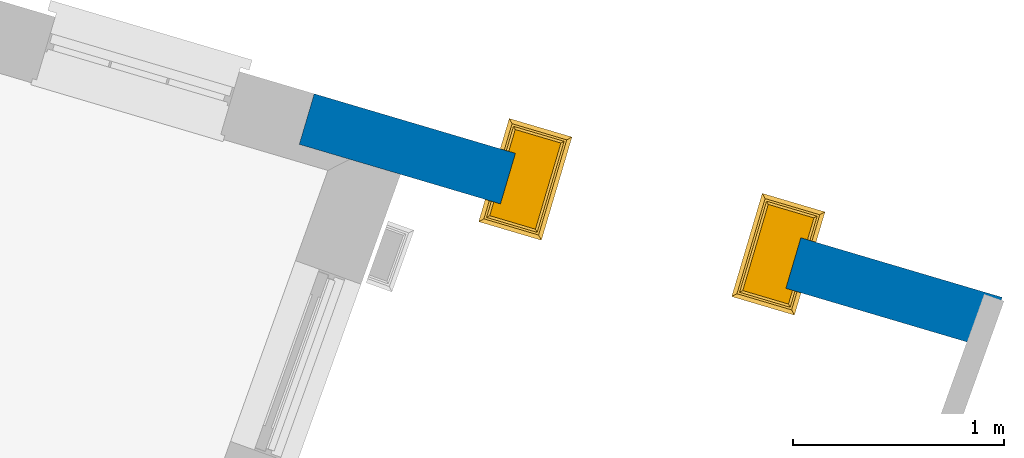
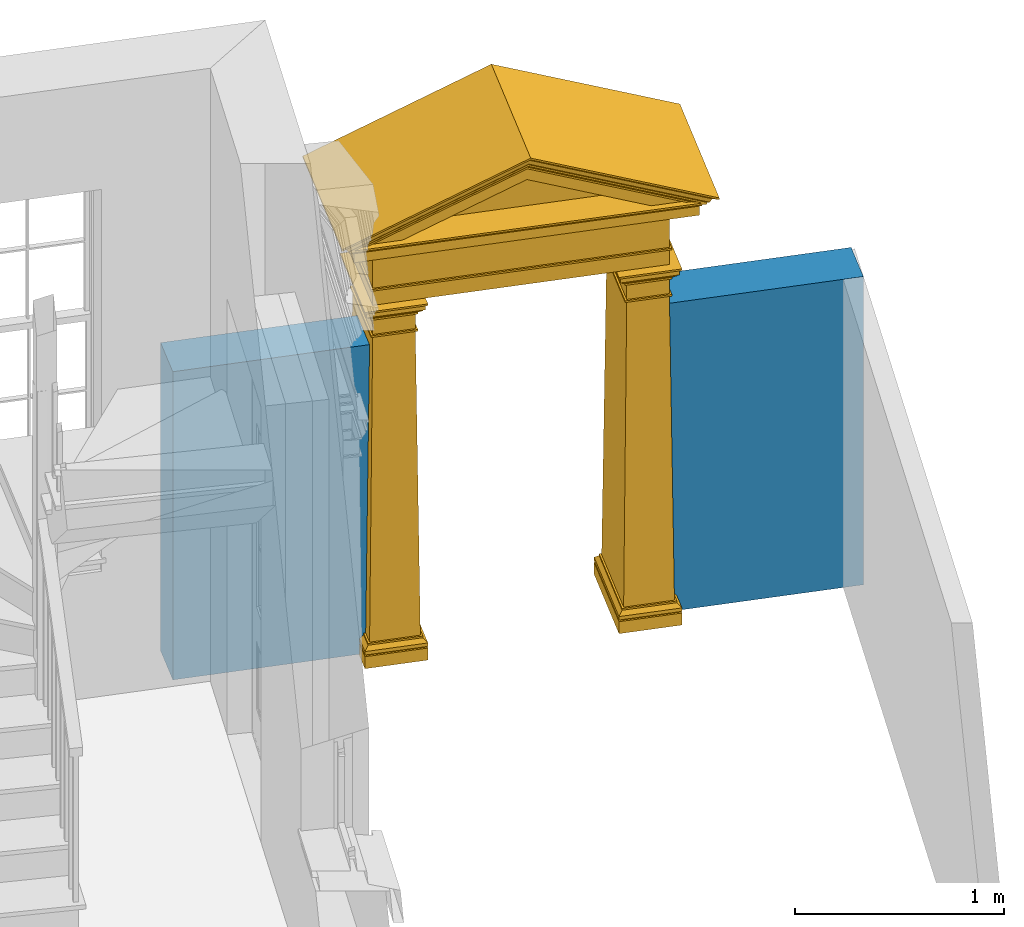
# One storey, part 7 of 7: 1 door, 1 wall, 1 opening.
"""IFC4 building model written with IfcOpenShell, lengths in metres."""

import ifcopenshell
import ifcopenshell.guid

model = None  # the IFC model being written
_history = None  # IfcOwnerHistory: only IFC2X3 demands one
_inside = {}  # id of a spatial element -> (the spatial element, [elements in it])
_under = {}  # id of a project, library or spatial element -> (it, [spatial elements below it])
_declared = {}  # id of a project -> (the project, [libraries it declares])
_typed = {}  # id of a type object -> (the type object, [elements of that type])
_made_of = {}  # id of a material, layer set ... -> (it, [elements and type objects made of it])


def new_model(schema):
    """Start an empty IFC model of exactly this schema.

    Asked for "IFC4X3", IfcOpenShell would pick the latest addendum, in which some entities
    have other attributes; the version numbers below select the first issue.
    IFC2X3 requires an IfcOwnerHistory on every rooted entity: one is made here for all.
    """
    global model, _history
    if schema == "IFC4X3":
        model = ifcopenshell.file(schema_version=(4, 3, 0, 0))
    else:
        model = ifcopenshell.file(schema=schema)
    _inside.clear()
    _under.clear()
    _declared.clear()
    _typed.clear()
    _made_of.clear()
    _history = None
    if model.schema == "IFC2X3":
        org = make("IfcOrganization", Name="unknown")
        user = make(
            "IfcPersonAndOrganization",
            ThePerson=make("IfcPerson", FamilyName="unknown"),
            TheOrganization=org,
        )
        app = make(
            "IfcApplication",
            ApplicationDeveloper=org,
            Version="unknown",
            ApplicationFullName="unknown",
            ApplicationIdentifier="unknown",
        )
        _history = make(
            "IfcOwnerHistory",
            OwningUser=user,
            OwningApplication=app,
            ChangeAction="ADDED",
            CreationDate=0,
        )
    return model


def make(cls, **values):
    """One entity of the class cls with the attributes given. An attribute that is None is left unset."""
    return model.create_entity(
        cls, **{name: value for name, value in values.items() if value is not None}
    )


def rooted(cls, **values):
    """An entity with a GlobalId (a new one), such as an element, a storey or a relation."""
    return make(cls, GlobalId=ifcopenshell.guid.new(), OwnerHistory=_history, **values)


def si_unit(unit_type, name, prefix=None):
    """IfcSIUnit, for example si_unit("LENGTHUNIT", "METRE", prefix="MILLI")."""
    return make("IfcSIUnit", UnitType=unit_type, Prefix=prefix, Name=name)


def assignment(units):
    """IfcUnitAssignment: the units of a project."""
    return None if units is None else make("IfcUnitAssignment", Units=units)


def point(xyz):
    """IfcCartesianPoint."""
    return None if xyz is None else make("IfcCartesianPoint", Coordinates=xyz)


def direction(xyz):
    """IfcDirection."""
    return None if xyz is None else make("IfcDirection", DirectionRatios=xyz)


def frame(location, z_axis=None, x_axis=None):
    """IfcAxis2Placement3D, a coordinate frame: its origin and axes. An axis left out is left unset."""
    return make(
        "IfcAxis2Placement3D",
        Location=point(location),
        Axis=direction(z_axis),
        RefDirection=direction(x_axis),
    )


def origin():
    """The frame at (0, 0, 0) with its axes left unset."""
    return frame((0.0, 0.0, 0.0))


def origin_with_axes():
    """The frame at (0, 0, 0) with the z axis (0, 0, 1) and the x axis (1, 0, 0) written out."""
    return frame((0.0, 0.0, 0.0), z_axis=(0.0, 0.0, 1.0), x_axis=(1.0, 0.0, 0.0))


def place(relative_to, where):
    """IfcLocalPlacement: puts the frame where relative to a parent placement (None: the world)."""
    return make(
        "IfcLocalPlacement", PlacementRelTo=relative_to, RelativePlacement=where
    )


def context(
    kind, dimensions, precision=None, world=None, true_north=None, identifier=None
):
    """IfcGeometricRepresentationContext, for example the 3D "Model" context."""
    return make(
        "IfcGeometricRepresentationContext",
        ContextIdentifier=identifier,
        ContextType=kind,
        CoordinateSpaceDimension=dimensions,
        Precision=precision,
        WorldCoordinateSystem=world,
        TrueNorth=true_north,
    )


def subcontext(parent, identifier, kind, view, scale=None):
    """IfcGeometricRepresentationSubContext, for example "Body" below "Model"."""
    return make(
        "IfcGeometricRepresentationSubContext",
        ContextIdentifier=identifier,
        ContextType=kind,
        ParentContext=parent,
        TargetScale=scale,
        TargetView=view,
    )


def project(units=None, contexts=None):
    """IfcProject with its units and contexts."""
    return rooted(
        "IfcProject",
        Name="project",
        RepresentationContexts=contexts,
        UnitsInContext=assignment(units),
    )


def spatial(cls, under=None, at=None, **own):
    """A site, building, storey or space (cls), placed at a placement, below another one or the project."""
    s = rooted(cls, ObjectPlacement=at, **own)
    if under is not None:
        _under.setdefault(under.id(), (under, []))[1].append(s)
    return s


def polyline(points):
    """IfcPolyline through the points."""
    return make("IfcPolyline", Points=[point(p) for p in points])


def outline(outer, holes=None, kind="AREA"):
    """IfcArbitraryClosedProfileDef: a profile drawn as a closed curve; with holes, ...WithVoids."""
    if holes is None:
        return make("IfcArbitraryClosedProfileDef", ProfileType=kind, OuterCurve=outer)
    return make(
        "IfcArbitraryProfileDefWithVoids",
        ProfileType=kind,
        OuterCurve=outer,
        InnerCurves=holes,
    )


def extrude(swept, where, along, depth):
    """IfcExtrudedAreaSolid: the profile swept, set in the frame where, extruded along a direction by depth."""
    return make(
        "IfcExtrudedAreaSolid",
        SweptArea=swept,
        Position=where,
        ExtrudedDirection=direction(along),
        Depth=depth,
    )


def faces_of(points, faces, orient=None, outer=None):
    """IfcFace entities. A face is a list of loops; a loop is a list of indices into points, from 0.

    orient and outer hold one flag for each loop. By default every Orientation is true, the
    first loop of a face is its IfcFaceOuterBound and the others are IfcFaceBound.
    """
    made = []
    for i, loops in enumerate(faces):
        bounds = []
        for j, loop in enumerate(loops):
            is_outer = j == 0 if outer is None else outer[i][j]
            bounds.append(
                make(
                    "IfcFaceOuterBound" if is_outer else "IfcFaceBound",
                    Bound=make("IfcPolyLoop", Polygon=[points[k] for k in loop]),
                    Orientation=True if orient is None else orient[i][j],
                )
            )
        made.append(make("IfcFace", Bounds=bounds))
    return made


def faceted_brep(points, faces, orient=None, outer=None, voids=None):
    """IfcFacetedBrep: a solid bounded by flat faces; with voids (closed shells), ...WithVoids."""
    shared = [point(p) for p in points]
    hull = make("IfcClosedShell", CfsFaces=faces_of(shared, faces, orient, outer))
    if voids is None:
        return make("IfcFacetedBrep", Outer=hull)
    return make(
        "IfcFacetedBrepWithVoids",
        Outer=hull,
        Voids=[
            make(cls, CfsFaces=faces_of(shared, fs, o, b)) for cls, fs, o, b in voids
        ],
    )


def shape(context_of_items, identifier, shape_type, items):
    """IfcShapeRepresentation: the items that make up one representation, for example the "Body"."""
    return make(
        "IfcShapeRepresentation",
        ContextOfItems=context_of_items,
        RepresentationIdentifier=identifier,
        RepresentationType=shape_type,
        Items=items,
    )


def source(mapping_origin, context_of_items, identifier, shape_type, items):
    """IfcRepresentationMap: a shape defined once, which mapped items show again and again."""
    return make(
        "IfcRepresentationMap",
        MappingOrigin=mapping_origin,
        MappedRepresentation=shape(context_of_items, identifier, shape_type, items),
    )


def transform(
    local_origin,
    x_axis=None,
    y_axis=None,
    z_axis=None,
    scale=None,
    scale2=None,
    scale3=None,
    uniform=True,
):
    """IfcCartesianTransformationOperator3D, or its non-uniform kind. x_axis, y_axis, z_axis: its Axis1, 2, 3."""
    if uniform:
        return make(
            "IfcCartesianTransformationOperator3D",
            Axis1=direction(x_axis),
            Axis2=direction(y_axis),
            LocalOrigin=point(local_origin),
            Scale=scale,
            Axis3=direction(z_axis),
        )
    return make(
        "IfcCartesianTransformationOperator3DnonUniform",
        Axis1=direction(x_axis),
        Axis2=direction(y_axis),
        LocalOrigin=point(local_origin),
        Scale=scale,
        Axis3=direction(z_axis),
        Scale2=scale2,
        Scale3=scale3,
    )


def mapped(mapping_source, mapping_target):
    """IfcMappedItem: shows the shape of a source again, moved by a transform."""
    return make(
        "IfcMappedItem", MappingSource=mapping_source, MappingTarget=mapping_target
    )


def material(Name=None, Category=None):
    """IfcMaterial."""
    return make("IfcMaterial", Name=Name, Category=Category)


def layer(
    of_material, thickness, ventilated=None, Name=None, Category=None, Priority=None
):
    """IfcMaterialLayer: one layer of a wall or slab, of a material (None: an air gap)."""
    return make(
        "IfcMaterialLayer",
        Material=of_material,
        LayerThickness=thickness,
        IsVentilated=ventilated,
        Name=Name,
        Category=Category,
        Priority=Priority,
    )


def layer_set(layers, Name=None):
    """IfcMaterialLayerSet."""
    return make("IfcMaterialLayerSet", MaterialLayers=layers, LayerSetName=Name)


def layer_usage(for_layer_set, set_direction, sense, offset, extent=None):
    """IfcMaterialLayerSetUsage: how a layer set lies in its element."""
    return make(
        "IfcMaterialLayerSetUsage",
        ForLayerSet=for_layer_set,
        LayerSetDirection=set_direction,
        DirectionSense=sense,
        OffsetFromReferenceLine=offset,
        ReferenceExtent=extent,
    )


def made_of(thing, what):
    """Note that an element or type object is made of a material, layer set ...; save() writes the relation."""
    if what is not None:
        _made_of.setdefault(what.id(), (what, []))[1].append(thing)
    return thing


def type_object(cls, material=None, **own):
    """A type object (cls), such as IfcWallType, which elements share."""
    return made_of(rooted(cls, **own), material)


def type_shapes(of_type, sources):
    """Give a type object the sources (RepresentationMaps) that its elements show as mapped items."""
    of_type.RepresentationMaps = sources


def element(
    cls,
    number,
    at=None,
    inside=None,
    cuts=None,
    type_object=None,
    material=None,
    context=None,
    identifier="Body",
    shape_type=None,
    held_by="IfcProductDefinitionShape",
    body=None,
    shapes=None,
    **own,
):
    """One element of the class cls, such as IfcWall. Its Tag is "e" and its number.

    at: its placement. inside: the storey or other place that contains it. cuts: it is an
    opening in that element (IfcRelVoidsElement). A single representation is given by context,
    identifier, shape_type and body (its items); several are given by shapes. held_by: the class
    of the entity that holds the representations. save() writes the other relations.
    """
    e = rooted(cls, Tag="e%d" % number, ObjectPlacement=at, **own)
    if body is not None:
        shapes = [shape(context, identifier, shape_type, body)]
    if shapes is not None:
        e.Representation = make(held_by, Representations=shapes)
    if inside is not None:
        _inside.setdefault(inside.id(), (inside, []))[1].append(e)
    if cuts is not None:
        rooted(
            "IfcRelVoidsElement", RelatingBuildingElement=cuts, RelatedOpeningElement=e
        )
    if type_object is not None:
        _typed.setdefault(type_object.id(), (type_object, []))[1].append(e)
    return made_of(e, material)


def fill(opening, filler):
    """IfcRelFillsElement: the door or window that sits in an opening."""
    return rooted(
        "IfcRelFillsElement",
        RelatingOpeningElement=opening,
        RelatedBuildingElement=filler,
    )


def aggregate(whole, parts):
    """IfcRelAggregates: a whole, such as a stair, and the parts it consists of."""
    return rooted("IfcRelAggregates", RelatingObject=whole, RelatedObjects=parts)


def save(model, path):
    """Write the relations noted so far, then the file.

    IfcRelAggregates (storeys below a building ...), IfcRelContainedInSpatialStructure (elements
    in a storey), IfcRelDefinesByType, IfcRelAssociatesMaterial and IfcRelDeclares: one each for
    every whole, place, type object, material and project.
    """
    for whole, parts in _under.values():
        aggregate(whole, parts)
    for where, things in _inside.values():
        rooted(
            "IfcRelContainedInSpatialStructure",
            RelatedElements=things,
            RelatingStructure=where,
        )
    for kind, things in _typed.values():
        rooted("IfcRelDefinesByType", RelatedObjects=things, RelatingType=kind)
    for what, things in _made_of.values():
        rooted("IfcRelAssociatesMaterial", RelatedObjects=things, RelatingMaterial=what)
    for by, libraries in _declared.values():
        rooted("IfcRelDeclares", RelatingContext=by, RelatedDefinitions=libraries)
    model.write(path)


model = new_model("IFC4")

# Units and contexts
model_context = context("Model", 3, world=origin_with_axes())
body_context = subcontext(model_context, "Body", "Model", "MODEL_VIEW")
ifc_project = project(units=[si_unit("PLANEANGLEUNIT", "RADIAN"), si_unit("MASSUNIT", "GRAM", prefix="KILO"), si_unit("FORCEUNIT", "NEWTON", prefix="KILO"), si_unit("LENGTHUNIT", "METRE"), si_unit("AREAUNIT", "SQUARE_METRE"), si_unit("VOLUMEUNIT", "CUBIC_METRE")], contexts=[model_context, model_context])

# Sites, building, storey
site_1_placement = place(None, origin_with_axes())
site_1 = spatial("IfcSite", under=ifc_project, at=site_1_placement, Name="Tamar")
site_2_placement = place(site_1_placement, origin_with_axes())
site_2 = spatial("IfcSite", under=site_1, at=site_2_placement, Name="Site plot-23", CompositionType="ELEMENT")
building_placement = place(None, origin_with_axes())
building = spatial("IfcBuilding", under=site_2, at=building_placement, Name="Building plot-23", CompositionType="ELEMENT")
storey_placement = place(None, frame((0.0, 0.0, 26.0), z_axis=(0.0, 0.0, 1.0), x_axis=(1.0, 0.0, 0.0)))
storey = spatial("IfcBuildingStorey", under=building, at=storey_placement, Name="plot-23 0", CompositionType="ELEMENT", Elevation=26.0)

# Wall, opening, door
ifc_material = material(Name="Masonry")
ifc_layer = layer(ifc_material, 0.25, ventilated=False)
ifc_layer_set = layer_set([ifc_layer], Name="fence_0_0.25")
ifc_layer_usage = layer_usage(ifc_layer_set, "AXIS2", "POSITIVE", -0.25)
wall_type = type_object("IfcWallType", Name="fence_0_0.25", PredefinedType="SOLIDWALL", material=ifc_layer_set)
wall_placement = place(storey_placement, frame((270.450484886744, 280.693910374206, 0.0), z_axis=(0.0, 0.0, 1.0), x_axis=(-0.958899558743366, 0.283745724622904, 0.0)))
wall = element("IfcWall", 1, at=wall_placement, inside=storey, type_object=wall_type, material=ifc_layer_usage, Name="fence", context=body_context, shape_type="SweptSolid", body=[
    extrude(outline(polyline([(-0.24999999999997, -1.7128050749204e-14), (-0.249999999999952, -0.249999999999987), (3.14825147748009, -0.249999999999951), (3.14825147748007, 1.81753586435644e-14), (-0.24999999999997, -1.7128050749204e-14)])), origin_with_axes(), (0.0, 0.0, 1.0), 1.8),
])
opening_placement = place(wall_placement, frame((0.744125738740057, 0.0, -0.0100000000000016)))
opening = element("IfcOpeningElement", 2, at=opening_placement, cuts=wall, Name="My Opening", ObjectType="Opening", context=body_context, shape_type="SweptSolid", body=[
    extrude(outline(polyline([(0.0, -0.269999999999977), (1.40999999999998, -0.270000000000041), (1.40999999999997, 1.01999999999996), (-8.32667268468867e-15, 1.02000000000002), (0.0, -0.269999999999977)])), origin_with_axes(), (0.0, 0.0, 1.0), 1.81),
])
door_type = type_object("IfcDoorType", Name="gate", OperationType="SINGLE_SWING_LEFT", PredefinedType="NOTDEFINED")
shared_shape = source(origin(), body_context, "Body", "Brep", [
    faceted_brep([(1.565, 0.25, 2.5), (1.565, -0.21, 2.5), (1.565, -0.21, 2.49), (1.565, 0.25, 2.49), (1.445, -0.09, 2.01), (1.215, -0.09, 2.01), (1.215, -0.09, 2.0), (1.445, -0.09, 2.0), (-0.035, -0.09, 2.180001), (-0.025, -0.08, 2.180001), (-0.025, 0.25, 2.180001), (-0.035, 0.25, 2.180001), (-0.025, -0.08, 2.170001), (-0.035, -0.09, 2.170001), (-0.035, 0.25, 2.170001), (-0.025, 0.25, 2.170001), (1.445, -0.09, 2.180001), (1.435, -0.08, 2.180001), (-0.025, -0.08, 2.37), (-0.025, 0.25, 2.37), (1.435, -0.08, 2.170001), (1.445, -0.09, 2.170001), (-0.025, -0.08, 2.08), (-0.025, 0.25, 2.08), (1.445, 0.25, 2.180001), (1.435, 0.25, 2.180001), (1.435, -0.08, 2.37), (-0.035, -0.09, 2.37), (-0.035, 0.25, 2.37), (1.435, 0.25, 2.37), (1.445, 0.25, 2.170001), (1.435, 0.25, 2.170001), (0.235, -0.08, 2.08), (0.235, 0.25, 2.08), (1.175, 0.25, 2.08), (1.175, -0.08, 2.08), (-0.075, 0.25, 2.08), (-0.075, -0.13, 2.08), (1.445, -0.09, 2.37), (-0.035, -0.09, 2.380001), (-0.035, 0.25, 2.380001), (1.445, 0.25, 2.37), (1.435, -0.08, 2.08), (1.435, 0.25, 2.08), (0.235, 0.38, 2.07), (0.235, 0.38, 2.08), (0.235, 0.33, 2.08), (0.235, -0.13, 2.08), (-0.075, 0.25, 2.07), (-0.075, -0.13, 2.07), (1.445, -0.09, 2.380001), (-0.045, -0.1, 2.39), (-0.045, 0.25, 2.39), (1.455, 0.25, 2.39), (1.455, -0.1, 2.39), (1.445, 0.25, 2.380001), (1.485, -0.13, 2.08), (1.485, 0.25, 2.08), (0.235, -0.13, 2.07), (1.175, -0.13, 2.08), (-0.065, 0.25, 2.07), (-0.065, -0.12, 2.07), (-0.055, -0.11, 2.39), (-0.055, 0.25, 2.39), (1.465, 0.25, 2.39), (1.465, -0.11, 2.39), (1.485, 0.25, 2.07), (1.485, -0.13, 2.07), (0.225, 0.25, 2.07), (0.235, 0.25, 2.07), (0.225, -0.12, 2.07), (-0.065, 0.25, 2.04), (-0.065, -0.12, 2.04), (1.475, 0.25, 2.07), (1.475, -0.12, 2.07), (1.175, 0.25, 2.07), (1.185, 0.25, 2.07), (1.185, -0.12, 2.07), (1.175, -0.13, 2.07), (1.175, 0.33, 2.08), (1.175, 0.38, 2.07), (-0.055, -0.11, 2.4), (-0.055, 0.25, 2.4), (1.465, 0.25, 2.4), (1.465, -0.11, 2.4), (0.225, 0.25, 2.04), (0.225, -0.12, 2.04), (-0.055, 0.25, 2.04), (-0.055, -0.11, 2.04), (1.475, 0.25, 2.04), (1.475, -0.12, 2.04), (1.185, 0.25, 2.04), (1.195, 0.25, 2.04), (1.195, -0.11, 2.04), (1.185, -0.12, 2.04), (-0.065, -0.12, 2.4), (-0.065, 0.25, 2.4), (-0.085, -0.14, 2.42), (-0.085, 0.25, 2.42), (-0.085, -0.14, 2.43), (-0.085, 0.25, 2.43), (1.495, 0.25, 2.43), (1.495, -0.14, 2.43), (1.495, -0.14, 2.42), (1.495, 0.25, 2.42), (1.475, 0.25, 2.4), (1.475, -0.12, 2.4), (0.215, 0.25, 2.04), (0.215, -0.11, 2.04), (-0.055, 0.25, 2.03), (-0.055, -0.11, 2.03), (0.215, 0.25, 2.03), (0.215, -0.11, 2.03), (1.465, 0.25, 2.04), (1.465, -0.11, 2.04), (1.195, 0.25, 2.03), (1.195, -0.11, 2.03), (1.465, 0.25, 2.03), (1.465, -0.11, 2.03), (-0.145, -0.2, 2.43), (-0.145, 0.25, 2.43), (1.555, 0.25, 2.43), (1.555, -0.2, 2.43), (-0.035, 0.25, 2.01), (-0.035, -0.09, 2.01), (0.195, 0.25, 2.01), (0.195, -0.09, 2.01), (1.215, 0.25, 2.01), (1.445, 0.25, 2.01), (-0.145, -0.2, 2.49), (-0.145, 0.25, 2.49), (1.555, 0.25, 2.49), (1.555, -0.2, 2.49), (-0.035, 0.25, 2.0), (-0.035, -0.09, 2.0), (0.195, 0.25, 2.0), (0.195, -0.09, 2.0), (1.215, 0.25, 2.0), (1.445, 0.25, 2.0), (-0.155, -0.21, 2.49), (-0.155, 0.25, 2.49), (-0.155, -0.21, 2.5), (-0.155, 0.25, 2.5), (-0.165, -0.22, 2.51), (-0.165, 0.25, 2.51), (1.575, 0.25, 2.51), (1.575, -0.22, 2.51), (-0.025, -0.08, 2.0), (-0.025, 0.25, 2.0), (0.185, -0.08, 2.0), (0.185, 0.25, 2.0), (-0.025, 0.25, 1.91), (-0.025, -0.08, 1.91), (0.185, 0.25, 1.91), (0.185, -0.08, 1.91), (1.225, 0.25, 2.0), (1.225, -0.08, 2.0), (1.435, -0.08, 2.0), (1.435, 0.25, 2.0), (1.435, 0.25, 1.91), (1.435, -0.08, 1.91), (1.225, 0.25, 1.91), (1.225, -0.08, 1.91), (-0.175, -0.23, 2.51), (-0.175, 0.25, 2.51), (1.585, 0.25, 2.51), (1.585, -0.23, 2.51), (-0.035, 0.25, 1.91), (-0.035, -0.09, 1.91), (0.195, -0.09, 1.91), (0.195, 0.25, 1.91), (1.445, -0.09, 1.91), (1.445, 0.25, 1.91), (1.215, -0.09, 1.91), (1.215, 0.25, 1.91), (-0.175, -0.23, 2.52), (-0.175, 0.25, 2.52), (1.585, 0.25, 2.52), (1.585, -0.23, 2.52), (-0.035, 0.25, 1.9), (-0.035, -0.09, 1.9), (0.195, 0.25, 1.9), (0.195, -0.09, 1.9), (-0.025, -0.08, 1.9), (-0.025, 0.25, 1.9), (0.185, -0.08, 1.9), (0.185, 0.25, 1.9), (-0.045, 0.25, 0.13), (-0.045, -0.1, 0.13), (0.205, 0.25, 0.13), (0.205, -0.1, 0.13), (1.445, -0.09, 1.9), (1.445, 0.25, 1.9), (1.435, -0.08, 1.9), (1.435, 0.25, 1.9), (1.455, -0.1, 0.13), (1.455, 0.25, 0.13), (1.225, 0.25, 1.9), (1.205, 0.25, 0.13), (1.205, -0.1, 0.13), (1.225, -0.08, 1.9), (1.215, -0.09, 1.9), (1.215, 0.25, 1.9), (-0.185, -0.24, 2.526), (-0.185, 0.25, 2.526), (-0.150858, -0.23, 2.52), (1.560858, -0.23, 2.52), (-0.195, -0.25, 2.551001), (-0.195, 0.25, 2.551001), (-0.223, 0.25, 2.561001), (-0.223, -0.278, 2.561001), (1.633, -0.278, 2.561001), (1.605, -0.25, 2.551001), (1.605, 0.25, 2.551001), (1.633, 0.25, 2.561001), (1.595, 0.25, 2.526), (1.595, -0.24, 2.526), (-0.055, 0.25, 0.13), (-0.055, -0.11, 0.13), (0.215, 0.25, 0.13), (0.215, -0.11, 0.13), (1.465, -0.11, 0.13), (1.465, 0.25, 0.13), (1.195, 0.25, 0.13), (1.195, -0.11, 0.13), (0.705, -0.23, 2.884508), (0.705, -0.24, 2.89465), (0.705, -0.23, 2.874508), (1.486538, -0.21, 2.522499), (-0.076538, -0.21, 2.522499), (0.705, -0.25, 2.923792), (0.705, -0.278, 2.945389), (-0.223, -0.278, 2.571001), (-0.223, 0.25, 2.571001), (1.633, 0.25, 2.571001), (1.633, -0.278, 2.571001), (-0.055, 0.25, 0.12), (-0.055, -0.11, 0.12), (0.215, 0.25, 0.12), (0.215, -0.11, 0.12), (-0.075, 0.25, 0.1), (-0.075, -0.13, 0.1), (0.235, 0.25, 0.1), (0.235, -0.13, 0.1), (1.465, 0.25, 0.12), (1.465, -0.11, 0.12), (1.485, 0.25, 0.1), (1.485, -0.13, 0.1), (1.195, 0.25, 0.12), (1.175, 0.25, 0.1), (1.175, -0.13, 0.1), (1.195, -0.11, 0.12), (-0.13784, -0.22, 2.52125), (0.705, -0.22, 2.870365), (1.51068, -0.21, 2.522499), (1.54784, -0.22, 2.52125), (1.316733, -0.2, 2.523749), (0.093267, -0.2, 2.523749), (-0.10068, -0.21, 2.522499), (0.705, -0.278, 2.955389), (0.705, 0.25, 2.955389), (-0.075, 0.25, 0.08), (-0.075, -0.13, 0.08), (0.235, 0.25, 0.08), (0.235, -0.13, 0.08), (1.485, -0.13, 0.08), (1.485, 0.25, 0.08), (1.175, 0.25, 0.08), (1.175, -0.13, 0.08), (0.705, -0.21, 2.856223), (0.705, -0.21, 2.846222), (1.272495, -0.14, 2.53125), (0.137505, -0.14, 2.53125), (-0.06352, -0.2, 2.523749), (1.47352, -0.2, 2.523749), (-0.065, 0.25, 0.07), (-0.065, -0.12, 0.07), (0.225, 0.25, 0.07), (0.225, -0.12, 0.07), (1.475, 0.25, 0.07), (1.475, -0.12, 0.07), (1.185, 0.25, 0.07), (1.185, -0.12, 0.07), (0.705, -0.2, 2.842082), (1.298626, -0.14, 2.53125), (1.214197, -0.12, 2.533749), (0.195803, -0.12, 2.533749), (0.111374, -0.14, 2.53125), (0.705, -0.2, 2.777137), (-0.075, 0.25, 0.07), (-0.075, -0.13, 0.07), (0.235, -0.13, 0.07), (0.235, 0.25, 0.07), (0.235, -0.13, 0.0), (-0.075, -0.13, 0.0), (-0.075, 0.25, 0.0), (0.235, 0.25, 0.0), (1.485, -0.13, 0.07), (1.485, 0.25, 0.07), (1.485, -0.13, 0.0), (1.175, -0.13, 0.0), (1.175, 0.25, 0.0), (1.485, 0.25, 0.0), (1.175, -0.13, 0.07), (1.175, 0.25, 0.07), (0.705, -0.14, 2.766314), (0.705, -0.14, 2.777137), (0.705, -0.12, 2.744666), (1.185048, -0.11, 2.535), (0.224952, -0.11, 2.535), (0.705, -0.11, 2.744666), (1.211179, -0.11, 2.535), (1.12675, -0.09, 2.537501), (0.28325, -0.09, 2.537501), (0.198821, -0.11, 2.535), (0.705, -0.11, 2.733843), (1.152881, -0.09, 2.537501), (1.18203, -0.1, 2.536251), (0.286268, -0.08, 2.538751), (1.123732, -0.08, 2.538751), (0.22797, -0.1, 2.536251), (0.257119, -0.09, 2.537501), (0.705, -0.1, 2.733843), (0.705, -0.09, 2.712194), (0.705, -0.09, 2.723017), (0.705, -0.08, 2.712194), (-0.155, 0.46, 2.5), (-0.155, 0.46, 2.49), (-0.035, 0.34, 2.01), (0.195, 0.34, 2.01), (0.195, 0.34, 2.0), (-0.035, 0.34, 2.0), (1.445, 0.34, 2.180001), (1.435, 0.33, 2.180001), (1.435, 0.33, 2.170001), (1.445, 0.34, 2.170001), (-0.035, 0.34, 2.180001), (-0.025, 0.33, 2.180001), (1.435, 0.33, 2.37), (-0.025, 0.33, 2.170001), (-0.035, 0.34, 2.170001), (1.435, 0.33, 2.08), (-0.025, 0.33, 2.37), (1.445, 0.34, 2.37), (1.485, 0.38, 2.08), (-0.035, 0.34, 2.37), (1.445, 0.34, 2.380001), (-0.025, 0.33, 2.08), (1.175, 0.38, 2.08), (1.485, 0.38, 2.07), (-0.035, 0.34, 2.380001), (1.455, 0.35, 2.39), (-0.045, 0.35, 2.39), (-0.075, 0.38, 2.08), (1.475, 0.37, 2.07), (1.465, 0.36, 2.39), (-0.055, 0.36, 2.39), (-0.075, 0.38, 2.07), (1.185, 0.37, 2.07), (1.475, 0.37, 2.04), (-0.065, 0.37, 2.07), (0.225, 0.37, 2.07), (1.465, 0.36, 2.4), (-0.055, 0.36, 2.4), (1.185, 0.37, 2.04), (1.465, 0.36, 2.04), (-0.065, 0.37, 2.04), (0.215, 0.36, 2.04), (0.225, 0.37, 2.04), (1.475, 0.37, 2.4), (1.495, 0.39, 2.42), (1.495, 0.39, 2.43), (-0.085, 0.39, 2.43), (-0.085, 0.39, 2.42), (-0.065, 0.37, 2.4), (1.195, 0.36, 2.04), (1.465, 0.36, 2.03), (1.195, 0.36, 2.03), (-0.055, 0.36, 2.04), (0.215, 0.36, 2.03), (-0.055, 0.36, 2.03), (1.555, 0.45, 2.43), (-0.145, 0.45, 2.43), (1.445, 0.34, 2.01), (1.215, 0.34, 2.01), (1.555, 0.45, 2.49), (-0.145, 0.45, 2.49), (1.445, 0.34, 2.0), (1.215, 0.34, 2.0), (1.565, 0.46, 2.49), (1.565, 0.46, 2.5), (1.575, 0.47, 2.51), (-0.165, 0.47, 2.51), (1.435, 0.33, 2.0), (1.225, 0.33, 2.0), (1.435, 0.33, 1.91), (1.225, 0.33, 1.91), (0.185, 0.33, 2.0), (-0.025, 0.33, 2.0), (-0.025, 0.33, 1.91), (0.185, 0.33, 1.91), (1.585, 0.48, 2.51), (-0.175, 0.48, 2.51), (1.445, 0.34, 1.91), (1.215, 0.34, 1.91), (-0.035, 0.34, 1.91), (0.195, 0.34, 1.91), (1.585, 0.48, 2.52), (-0.175, 0.48, 2.52), (1.445, 0.34, 1.9), (1.215, 0.34, 1.9), (1.435, 0.33, 1.9), (1.225, 0.33, 1.9), (1.455, 0.35, 0.13), (1.205, 0.35, 0.13), (-0.035, 0.34, 1.9), (-0.025, 0.33, 1.9), (-0.045, 0.35, 0.13), (0.205, 0.35, 0.13), (0.185, 0.33, 1.9), (0.195, 0.34, 1.9), (1.595, 0.49, 2.526), (1.560858, 0.48, 2.52), (-0.150858, 0.48, 2.52), (1.605, 0.5, 2.551001), (1.633, 0.528, 2.561001), (-0.223, 0.528, 2.561001), (-0.195, 0.5, 2.551001), (-0.185, 0.49, 2.526), (1.465, 0.36, 0.13), (1.195, 0.36, 0.13), (-0.055, 0.36, 0.13), (0.215, 0.36, 0.13), (0.705, 0.48, 2.884508), (0.705, 0.49, 2.89465), (0.705, 0.48, 2.874508), (-0.076538, 0.46, 2.522499), (1.486538, 0.46, 2.522499), (0.705, 0.5, 2.923792), (0.705, 0.528, 2.945389), (1.633, 0.528, 2.571001), (-0.223, 0.528, 2.571001), (1.465, 0.36, 0.12), (1.195, 0.36, 0.12), (1.485, 0.38, 0.1), (1.175, 0.38, 0.1), (-0.055, 0.36, 0.12), (-0.075, 0.38, 0.1), (0.235, 0.38, 0.1), (0.215, 0.36, 0.12), (1.54784, 0.47, 2.52125), (0.705, 0.47, 2.870365), (-0.10068, 0.46, 2.522499), (-0.13784, 0.47, 2.52125), (0.093267, 0.45, 2.523749), (1.316733, 0.45, 2.523749), (1.51068, 0.46, 2.522499), (0.705, 0.528, 2.955389), (1.485, 0.38, 0.08), (1.175, 0.38, 0.08), (-0.075, 0.38, 0.08), (0.235, 0.38, 0.08), (0.705, 0.46, 2.856223), (0.705, 0.46, 2.846222), (0.137505, 0.39, 2.53125), (1.272495, 0.39, 2.53125), (1.47352, 0.45, 2.523749), (-0.06352, 0.45, 2.523749), (1.475, 0.37, 0.07), (1.185, 0.37, 0.07), (-0.065, 0.37, 0.07), (0.225, 0.37, 0.07), (0.705, 0.45, 2.842082), (0.111374, 0.39, 2.53125), (0.195803, 0.37, 2.533749), (1.214197, 0.37, 2.533749), (1.298626, 0.39, 2.53125), (0.705, 0.45, 2.777137), (1.485, 0.38, 0.07), (1.175, 0.38, 0.07), (1.175, 0.38, 0.0), (1.485, 0.38, 0.0), (-0.075, 0.38, 0.07), (-0.075, 0.38, 0.0), (0.235, 0.38, 0.0), (0.235, 0.38, 0.07), (0.705, 0.39, 2.766314), (0.705, 0.39, 2.777137), (0.705, 0.37, 2.744666), (0.224952, 0.36, 2.535), (1.185048, 0.36, 2.535), (0.705, 0.36, 2.744666), (0.198821, 0.36, 2.535), (0.28325, 0.34, 2.537501), (1.12675, 0.34, 2.537501), (1.211179, 0.36, 2.535), (0.705, 0.36, 2.733843), (0.257119, 0.34, 2.537501), (0.22797, 0.35, 2.536251), (1.123732, 0.33, 2.538751), (0.286268, 0.33, 2.538751), (1.18203, 0.35, 2.536251), (1.152881, 0.34, 2.537501), (0.705, 0.35, 2.733843), (0.705, 0.34, 2.723017), (0.705, 0.34, 2.712194), (0.705, 0.33, 2.712194)], [[[0, 1, 2, 3]], [[4, 5, 6, 7]], [[8, 9, 10, 11]], [[12, 13, 14, 15]], [[13, 8, 11, 14]], [[9, 8, 16, 17]], [[9, 18, 19, 10]], [[13, 12, 20, 21]], [[22, 12, 15, 23]], [[8, 13, 21, 16]], [[17, 16, 24, 25]], [[18, 9, 17, 26]], [[27, 28, 19, 18]], [[26, 17, 25, 29]], [[16, 21, 30, 24]], [[21, 20, 31, 30]], [[32, 33, 34, 35]], [[12, 32, 35, 20]], [[12, 22, 32]], [[22, 23, 36, 37]], [[27, 18, 26, 38]], [[39, 40, 28, 27]], [[41, 38, 26, 29]], [[20, 42, 43, 31]], [[44, 45, 46]], [[42, 20, 35]], [[37, 47, 32, 22]], [[36, 48, 49, 37]], [[39, 27, 38, 50]], [[51, 52, 40, 39]], [[53, 54, 50, 55]], [[55, 50, 38, 41]], [[43, 42, 56, 57]], [[32, 47, 58]], [[59, 56, 42, 35]], [[58, 47, 37, 49]], [[48, 60, 61, 49]], [[51, 39, 50, 54]], [[62, 63, 52, 51]], [[64, 65, 54, 53]], [[66, 57, 56, 67]], [[68, 69, 58, 70]], [[60, 71, 72, 61]], [[73, 66, 67, 74]], [[75, 76, 77, 78]], [[34, 79, 80, 75]], [[59, 78, 67, 56]], [[61, 70, 58, 49]], [[62, 51, 54, 65]], [[81, 82, 63, 62]], [[83, 84, 65, 64]], [[85, 68, 70, 86]], [[71, 87, 88, 72]], [[86, 70, 61, 72]], [[77, 74, 67, 78]], [[89, 73, 74, 90]], [[91, 92, 93, 94]], [[76, 91, 94, 77]], [[81, 62, 65, 84]], [[95, 96, 82, 81]], [[97, 98, 96, 95]], [[99, 100, 98, 97]], [[101, 102, 103, 104]], [[105, 106, 84, 83]], [[104, 103, 106, 105]], [[107, 85, 86, 108]], [[87, 109, 110, 88]], [[88, 108, 86, 72]], [[111, 107, 108, 112]], [[77, 94, 90, 74]], [[113, 89, 90, 114]], [[92, 115, 116, 93]], [[93, 114, 90, 94]], [[117, 113, 114, 118]], [[95, 81, 84, 106]], [[97, 95, 106, 103]], [[119, 120, 100, 99]], [[99, 97, 103, 102]], [[121, 122, 102, 101]], [[109, 123, 124, 110]], [[112, 108, 88, 110]], [[125, 111, 112, 126]], [[115, 127, 5, 116]], [[93, 116, 118, 114]], [[128, 117, 118, 4]], [[129, 130, 120, 119]], [[119, 99, 102, 122]], [[131, 132, 122, 121]], [[123, 133, 134, 124]], [[110, 124, 126, 112]], [[135, 125, 126, 136]], [[127, 137, 6, 5]], [[4, 118, 116, 5]], [[138, 128, 4, 7]], [[139, 140, 130, 129]], [[129, 119, 122, 132]], [[141, 142, 140, 139]], [[143, 144, 142, 141]], [[145, 146, 1, 0]], [[3, 2, 132, 131]], [[147, 134, 133, 148]], [[126, 124, 134, 136]], [[135, 136, 149, 150]], [[148, 151, 152, 147]], [[153, 150, 149, 154]], [[6, 137, 155, 156]], [[7, 157, 158, 138]], [[159, 158, 157, 160]], [[155, 161, 162, 156]], [[139, 129, 132, 2]], [[141, 139, 2, 1]], [[163, 164, 144, 143]], [[143, 141, 1, 146]], [[165, 166, 146, 145]], [[147, 149, 136, 134]], [[167, 168, 152, 151]], [[147, 152, 154, 149]], [[154, 169, 170, 153]], [[156, 157, 7, 6]], [[160, 157, 156, 162]], [[171, 172, 159, 160]], [[173, 162, 161, 174]], [[175, 176, 164, 163]], [[163, 143, 146, 166]], [[177, 178, 166, 165]], [[179, 180, 168, 167]], [[154, 152, 168, 169]], [[181, 170, 169, 182]], [[183, 180, 179, 184]], [[181, 182, 185, 186]], [[184, 187, 188, 183]], [[189, 186, 185, 190]], [[160, 162, 173, 171]], [[191, 192, 172, 171]], [[191, 193, 194, 192]], [[193, 195, 196, 194]], [[197, 198, 199, 200]], [[201, 202, 197, 200]], [[174, 202, 201, 173]], [[203, 204, 176, 175]], [[175, 163, 205]], [[163, 166, 206, 205]], [[207, 208, 204, 203]], [[209, 208, 207, 210]], [[211, 212, 213, 214]], [[215, 216, 178, 177]], [[213, 212, 216, 215]], [[178, 206, 166]], [[180, 182, 169, 168]], [[183, 185, 182, 180]], [[187, 217, 218, 188]], [[183, 188, 190, 185]], [[219, 189, 190, 220]], [[201, 191, 171, 173]], [[200, 193, 191, 201]], [[195, 193, 200, 199]], [[195, 221, 222, 196]], [[198, 223, 224, 199]], [[175, 225, 226, 203]], [[225, 175, 205, 227]], [[205, 206, 228, 229]], [[203, 226, 230, 207]], [[207, 230, 231, 210]], [[232, 233, 209, 210]], [[234, 235, 211, 214]], [[231, 230, 212, 211]], [[216, 226, 225, 178]], [[212, 230, 226, 216]], [[227, 206, 178, 225]], [[217, 236, 237, 218]], [[220, 190, 188, 218]], [[238, 219, 220, 239]], [[236, 240, 241, 237]], [[242, 238, 239, 243]], [[221, 195, 199, 224]], [[244, 222, 221, 245]], [[246, 244, 245, 247]], [[248, 249, 250, 251]], [[223, 248, 251, 224]], [[227, 205, 252, 253]], [[254, 228, 206, 255]], [[256, 257, 229, 228]], [[252, 205, 229, 258]], [[231, 259, 232, 210]], [[260, 233, 232, 259]], [[234, 260, 259, 235]], [[259, 231, 211, 235]], [[253, 255, 206, 227]], [[239, 220, 218, 237]], [[261, 262, 241, 240]], [[243, 239, 237, 241]], [[263, 242, 243, 264]], [[224, 251, 245, 221]], [[251, 250, 247, 245]], [[265, 266, 246, 247]], [[249, 267, 268, 250]], [[253, 252, 258, 269]], [[270, 228, 254, 269]], [[269, 254, 255, 253]], [[256, 271, 272, 257]], [[273, 229, 257]], [[274, 256, 228]], [[269, 258, 229, 270]], [[261, 275, 276, 262]], [[264, 243, 241, 262]], [[277, 263, 264, 278]], [[250, 268, 265, 247]], [[279, 266, 265, 280]], [[267, 281, 282, 268]], [[283, 274, 228, 270]], [[284, 271, 256]], [[271, 285, 286, 272]], [[287, 257, 272]], [[270, 229, 273, 283]], [[283, 273, 257, 288]], [[288, 256, 274, 283]], [[289, 290, 276, 275]], [[262, 276, 278, 264]], [[278, 291, 292, 277]], [[293, 294, 295, 296]], [[280, 265, 268, 282]], [[297, 298, 279, 280]], [[299, 300, 301, 302]], [[303, 282, 281, 304]], [[305, 271, 284, 306]], [[306, 284, 256, 288]], [[307, 285, 271, 305]], [[285, 308, 309, 286]], [[305, 272, 286, 307]], [[288, 257, 287, 306]], [[306, 287, 272, 305]], [[289, 295, 294, 290]], [[278, 276, 290, 291]], [[296, 292, 291, 293]], [[290, 294, 293, 291]], [[280, 282, 303, 297]], [[302, 298, 297, 299]], [[299, 297, 303, 300]], [[304, 301, 300, 303]], [[310, 311, 285, 307]], [[311, 308, 285]], [[308, 312, 313, 309]], [[314, 286, 309]], [[307, 286, 314, 310]], [[315, 308, 311, 310]], [[316, 312, 308, 317]], [[318, 313, 312, 319]], [[320, 309, 313, 321]], [[310, 314, 309, 315]], [[322, 317, 308, 315]], [[323, 312, 316, 324]], [[324, 316, 317, 322]], [[323, 313, 318, 325]], [[325, 319, 312, 323]], [[325, 318, 319]], [[315, 309, 320, 322]], [[324, 321, 313, 323]], [[322, 320, 321, 324]], [[142, 326, 327, 140]], [[328, 329, 330, 331]], [[332, 333, 25, 24]], [[334, 335, 30, 31]], [[335, 332, 24, 30]], [[333, 332, 336, 337]], [[333, 338, 29, 25]], [[335, 334, 339, 340]], [[341, 334, 31, 43]], [[332, 335, 340, 336]], [[337, 336, 11, 10]], [[338, 333, 337, 342]], [[343, 41, 29, 338]], [[342, 337, 10, 19]], [[336, 340, 14, 11]], [[340, 339, 15, 14]], [[79, 34, 33, 46]], [[334, 79, 46, 339]], [[334, 341, 79]], [[341, 43, 57, 344]], [[343, 338, 342, 345]], [[346, 55, 41, 343]], [[28, 345, 342, 19]], [[339, 347, 23, 15]], [[35, 34, 75, 78]], [[33, 32, 58, 69]], [[347, 339, 46]], [[344, 348, 79, 341]], [[57, 66, 349, 344]], [[346, 343, 345, 350]], [[351, 53, 55, 346]], [[52, 352, 350, 40]], [[40, 350, 345, 28]], [[23, 347, 353, 36]], [[79, 348, 80]], [[45, 353, 347, 46]], [[80, 348, 344, 349]], [[66, 73, 354, 349]], [[351, 346, 350, 352]], [[355, 64, 53, 351]], [[63, 356, 352, 52]], [[48, 36, 353, 357]], [[76, 75, 80, 358]], [[73, 89, 359, 354]], [[60, 48, 357, 360]], [[69, 68, 361, 44]], [[46, 33, 69, 44]], [[45, 44, 357, 353]], [[354, 358, 80, 349]], [[355, 351, 352, 356]], [[362, 83, 64, 355]], [[82, 363, 356, 63]], [[91, 76, 358, 364]], [[89, 113, 365, 359]], [[364, 358, 354, 359]], [[361, 360, 357, 44]], [[71, 60, 360, 366]], [[85, 107, 367, 368]], [[68, 85, 368, 361]], [[362, 355, 356, 363]], [[369, 105, 83, 362]], [[370, 104, 105, 369]], [[371, 101, 104, 370]], [[100, 372, 373, 98]], [[96, 374, 363, 82]], [[98, 373, 374, 96]], [[92, 91, 364, 375]], [[113, 117, 376, 365]], [[365, 375, 364, 359]], [[115, 92, 375, 377]], [[361, 368, 366, 360]], [[87, 71, 366, 378]], [[107, 111, 379, 367]], [[367, 378, 366, 368]], [[109, 87, 378, 380]], [[369, 362, 363, 374]], [[370, 369, 374, 373]], [[381, 121, 101, 371]], [[371, 370, 373, 372]], [[120, 382, 372, 100]], [[117, 128, 383, 376]], [[377, 375, 365, 376]], [[127, 115, 377, 384]], [[111, 125, 329, 379]], [[367, 379, 380, 378]], [[123, 109, 380, 328]], [[385, 131, 121, 381]], [[381, 371, 372, 382]], [[130, 386, 382, 120]], [[128, 138, 387, 383]], [[376, 383, 384, 377]], [[137, 127, 384, 388]], [[125, 135, 330, 329]], [[328, 380, 379, 329]], [[133, 123, 328, 331]], [[389, 3, 131, 385]], [[385, 381, 382, 386]], [[390, 0, 3, 389]], [[391, 145, 0, 390]], [[144, 392, 326, 142]], [[140, 327, 386, 130]], [[393, 387, 138, 158]], [[384, 383, 387, 388]], [[137, 388, 394, 155]], [[158, 159, 395, 393]], [[161, 155, 394, 396]], [[330, 135, 150, 397]], [[331, 398, 148, 133]], [[151, 148, 398, 399]], [[150, 153, 400, 397]], [[389, 385, 386, 327]], [[390, 389, 327, 326]], [[401, 165, 145, 391]], [[391, 390, 326, 392]], [[164, 402, 392, 144]], [[393, 394, 388, 387]], [[172, 403, 395, 159]], [[393, 395, 396, 394]], [[396, 404, 174, 161]], [[397, 398, 331, 330]], [[399, 398, 397, 400]], [[405, 167, 151, 399]], [[406, 400, 153, 170]], [[407, 177, 165, 401]], [[401, 391, 392, 402]], [[176, 408, 402, 164]], [[192, 409, 403, 172]], [[396, 395, 403, 404]], [[202, 174, 404, 410]], [[411, 409, 192, 194]], [[202, 410, 412, 197]], [[194, 196, 413, 411]], [[198, 197, 412, 414]], [[399, 400, 406, 405]], [[415, 179, 167, 405]], [[415, 416, 184, 179]], [[416, 417, 187, 184]], [[186, 189, 418, 419]], [[420, 181, 186, 419]], [[170, 181, 420, 406]], [[421, 215, 177, 407]], [[407, 401, 422]], [[401, 402, 423, 422]], [[424, 213, 215, 421]], [[214, 213, 424, 425]], [[426, 427, 208, 209]], [[204, 428, 408, 176]], [[208, 427, 428, 204]], [[408, 423, 402]], [[409, 410, 404, 403]], [[411, 412, 410, 409]], [[196, 222, 429, 413]], [[411, 413, 414, 412]], [[223, 198, 414, 430]], [[420, 415, 405, 406]], [[419, 416, 415, 420]], [[417, 416, 419, 418]], [[417, 431, 217, 187]], [[189, 219, 432, 418]], [[407, 433, 434, 421]], [[433, 407, 422, 435]], [[422, 423, 436, 437]], [[421, 434, 438, 424]], [[424, 438, 439, 425]], [[440, 234, 214, 425]], [[233, 441, 426, 209]], [[439, 438, 427, 426]], [[428, 434, 433, 408]], [[427, 438, 434, 428]], [[435, 423, 408, 433]], [[222, 244, 442, 429]], [[430, 414, 413, 429]], [[248, 223, 430, 443]], [[244, 246, 444, 442]], [[249, 248, 443, 445]], [[431, 417, 418, 432]], [[236, 217, 431, 446]], [[240, 236, 446, 447]], [[238, 242, 448, 449]], [[219, 238, 449, 432]], [[435, 422, 450, 451]], [[452, 436, 423, 453]], [[454, 455, 437, 436]], [[450, 422, 437, 456]], [[439, 457, 440, 425]], [[260, 234, 440, 457]], [[233, 260, 457, 441]], [[457, 439, 426, 441]], [[451, 453, 423, 435]], [[443, 430, 429, 442]], [[266, 458, 444, 246]], [[445, 443, 442, 444]], [[267, 249, 445, 459]], [[432, 449, 446, 431]], [[449, 448, 447, 446]], [[460, 261, 240, 447]], [[242, 263, 461, 448]], [[451, 450, 456, 462]], [[463, 436, 452, 462]], [[462, 452, 453, 451]], [[454, 464, 465, 455]], [[466, 437, 455]], [[467, 454, 436]], [[462, 456, 437, 463]], [[266, 279, 468, 458]], [[459, 445, 444, 458]], [[281, 267, 459, 469]], [[448, 461, 460, 447]], [[275, 261, 460, 470]], [[263, 277, 471, 461]], [[472, 467, 436, 463]], [[473, 464, 454]], [[464, 474, 475, 465]], [[476, 455, 465]], [[463, 437, 466, 472]], [[472, 466, 455, 477]], [[477, 454, 467, 472]], [[298, 478, 468, 279]], [[458, 468, 469, 459]], [[469, 479, 304, 281]], [[480, 481, 302, 301]], [[470, 460, 461, 471]], [[482, 289, 275, 470]], [[483, 484, 296, 295]], [[485, 471, 277, 292]], [[486, 464, 473, 487]], [[487, 473, 454, 477]], [[488, 474, 464, 486]], [[474, 489, 490, 475]], [[486, 465, 475, 488]], [[477, 455, 476, 487]], [[487, 476, 465, 486]], [[298, 302, 481, 478]], [[469, 468, 478, 479]], [[301, 304, 479, 480]], [[478, 481, 480, 479]], [[470, 471, 485, 482]], [[295, 289, 482, 483]], [[483, 482, 485, 484]], [[292, 296, 484, 485]], [[491, 492, 474, 488]], [[492, 489, 474]], [[489, 493, 494, 490]], [[495, 475, 490]], [[488, 475, 495, 491]], [[496, 489, 492, 491]], [[497, 493, 489, 498]], [[499, 494, 493, 500]], [[501, 490, 494, 502]], [[491, 495, 490, 496]], [[503, 498, 489, 496]], [[497, 504, 505, 493]], [[504, 497, 498, 503]], [[505, 494, 499, 506]], [[506, 500, 493, 505]], [[506, 499, 500]], [[496, 490, 501, 503]], [[504, 502, 494, 505]], [[503, 501, 502, 504]], [[78, 59, 35]]]),
])
type_shapes(door_type, [shared_shape])
door_placement = place(storey_placement, frame((269.813554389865, 281.163955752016, -0.0100000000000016), z_axis=(0.0, 0.0, 1.0), x_axis=(-1.35204837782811, 0.400081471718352, 0.0)))
door = element("IfcDoor", 3, at=door_placement, inside=storey, type_object=door_type, Name="house entrance gate", OverallHeight=1.81, OverallWidth=1.41, context=body_context, shape_type="MappedRepresentation", body=[
    mapped(shared_shape, transform((0.0, 0.0, 0.0), scale=1.0)),
])
fill(opening, door)

save(model, "model.ifc")
